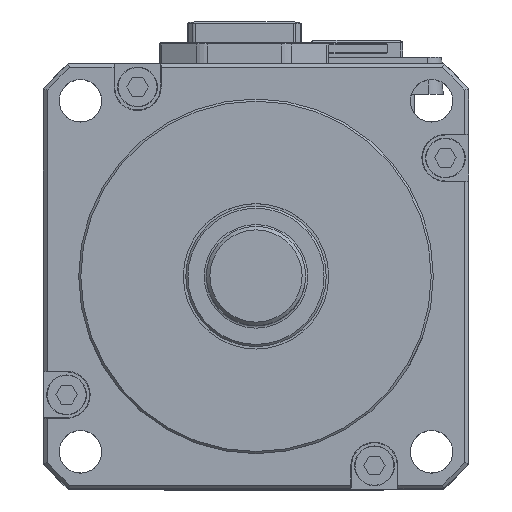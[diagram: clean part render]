
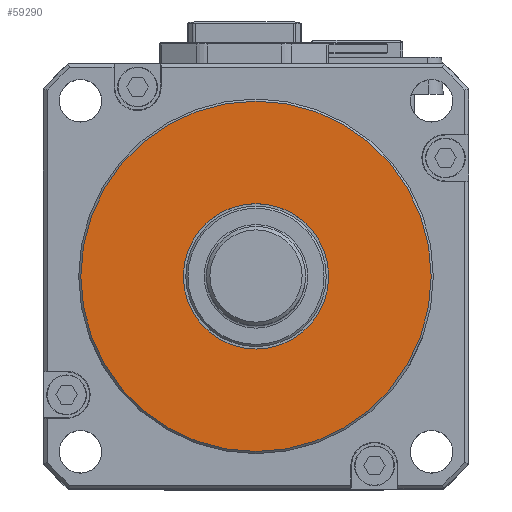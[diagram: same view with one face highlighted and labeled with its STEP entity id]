
A CAD part, top view. The second image highlights one B-rep face of the part: STEP entity #59290.
In plain terms, the highlighted planar face has unit normal (0, 0, 1).
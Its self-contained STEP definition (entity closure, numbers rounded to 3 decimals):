
#3924 = EDGE_CURVE ( 'NONE', #16966, #16966, #50160, .T. ) ;
#5955 = CARTESIAN_POINT ( 'NONE',  ( 0., 0., 10. ) ) ;
#8928 = FACE_BOUND ( 'NONE', #67896, .T. ) ;
#13218 = EDGE_LOOP ( 'NONE', ( #68211 ) ) ;
#16966 = VERTEX_POINT ( 'NONE', #38439 ) ;
#16968 = CARTESIAN_POINT ( 'NONE',  ( 0., 0., 10. ) ) ;
#18786 = FACE_OUTER_BOUND ( 'NONE', #13218, .T. ) ;
#19133 = DIRECTION ( 'NONE',  ( 0., 0., 1. ) ) ;
#21306 = CARTESIAN_POINT ( 'NONE',  ( 24.7, 0., 10. ) ) ;
#22556 = DIRECTION ( 'NONE',  ( 1., 0., 0. ) ) ;
#24410 = AXIS2_PLACEMENT_3D ( 'NONE', #16968, #61123, #51004 ) ;
#26573 = VERTEX_POINT ( 'NONE', #21306 ) ;
#27457 = DIRECTION ( 'NONE',  ( 0., 0., 1. ) ) ;
#34988 = DIRECTION ( 'NONE',  ( 1., 0., 0. ) ) ;
#38439 = CARTESIAN_POINT ( 'NONE',  ( 10.25, 0., 10. ) ) ;
#39892 = AXIS2_PLACEMENT_3D ( 'NONE', #5955, #27457, #22556 ) ;
#41072 = CIRCLE ( 'NONE', #39892, 24.7 ) ;
#44760 = AXIS2_PLACEMENT_3D ( 'NONE', #67526, #19133, #34988 ) ;
#50160 = CIRCLE ( 'NONE', #24410, 10.25 ) ;
#50380 = EDGE_CURVE ( 'NONE', #26573, #26573, #41072, .T. ) ;
#50896 = ORIENTED_EDGE ( 'NONE', *, *, #3924, .F. ) ;
#51004 = DIRECTION ( 'NONE',  ( 1., 0., 0. ) ) ;
#59290 = ADVANCED_FACE ( 'NONE', ( #18786, #8928 ), #67171, .T. ) ;
#61123 = DIRECTION ( 'NONE',  ( 0., 0., 1. ) ) ;
#67171 = PLANE ( 'NONE',  #44760 ) ;
#67526 = CARTESIAN_POINT ( 'NONE',  ( 0., 0., 10. ) ) ;
#67896 = EDGE_LOOP ( 'NONE', ( #50896 ) ) ;
#68211 = ORIENTED_EDGE ( 'NONE', *, *, #50380, .T. ) ;
